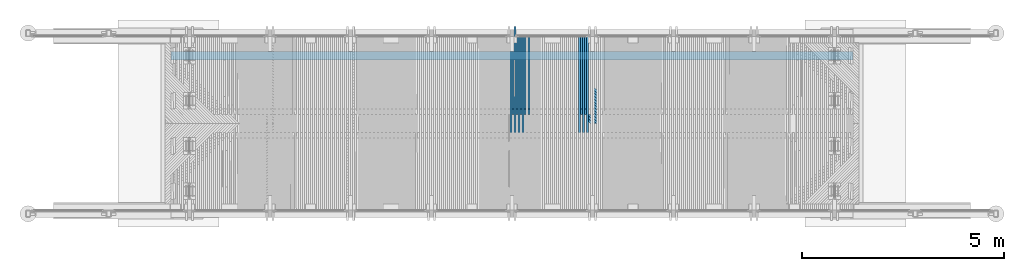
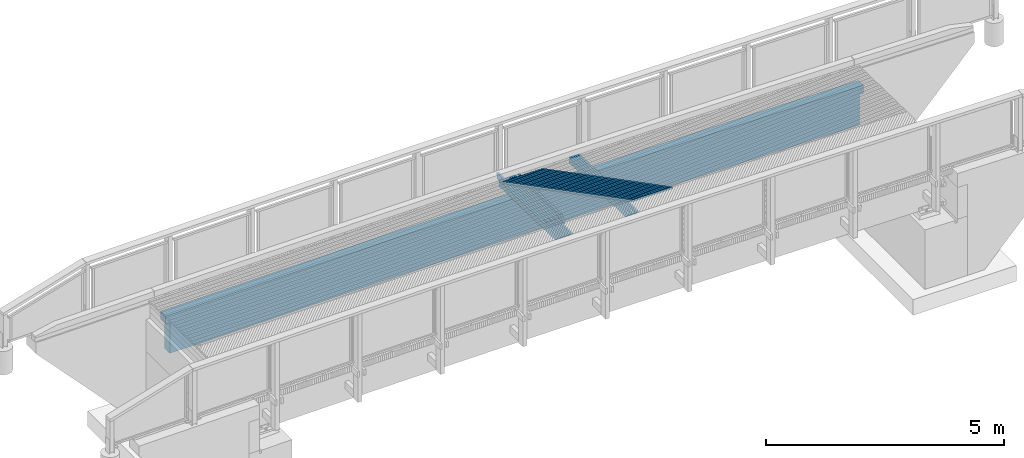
# One storey, part 35 of 65: 29 beams.
"""IFC2X3 building model written with IfcOpenShell, lengths in millimetres."""

from ifc_helpers import new_model, si_unit, frame, origin_with_axes, place, context, subcontext, project, spatial, faceted_brep, material, type_object, element, save


model = new_model("IFC2X3")

# Units and contexts
model_context = context("Model", 3, precision=1e-05, world=origin_with_axes())
body_context = subcontext(model_context, "Body", "Model", "MODEL_VIEW")
ifc_project = project(units=[si_unit("LENGTHUNIT", "METRE", prefix="MILLI"), si_unit("AREAUNIT", "SQUARE_METRE"), si_unit("VOLUMEUNIT", "CUBIC_METRE"), si_unit("MASSUNIT", "GRAM", prefix="KILO"), si_unit("TIMEUNIT", "SECOND"), si_unit("PLANEANGLEUNIT", "RADIAN"), si_unit("SOLIDANGLEUNIT", "STERADIAN"), si_unit("THERMODYNAMICTEMPERATUREUNIT", "DEGREE_CELSIUS"), si_unit("LUMINOUSINTENSITYUNIT", "LUMEN")], contexts=[model_context])

# Site, building, storey
site_placement = place(None, origin_with_axes())
site = spatial("IfcSite", under=ifc_project, at=site_placement, Name="Undefined", CompositionType="ELEMENT")
building_placement = place(site_placement, origin_with_axes())
building = spatial("IfcBuilding", under=site, at=building_placement, Name="Undefined", CompositionType="ELEMENT")
storey_placement = place(building_placement, origin_with_axes())
storey = spatial("IfcBuildingStorey", under=building, at=storey_placement, Name="Undefined", CompositionType="ELEMENT", Elevation=0.0)

# Beams
ifc_material = material(Name="TIMBER/Timber_Undefined")
beam_type_1 = type_object("IfcBeamType", Name="50*50", PredefinedType="NOTDEFINED")
for number, where, z_axis, x_axis, name in (
    (1, (10894.0405199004, 22365.4998996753, 3229.16691949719), (0.707044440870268, 0.706981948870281, -0.0162690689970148), (-0.707162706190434, 0.706948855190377, -0.0120092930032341), "BEAM"),
    (2, (10823.3170835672, 22365.4998996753, 3229.50270179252), (0.70704634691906, 0.706981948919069, -0.0161860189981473), (-0.707161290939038, 0.706948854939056, -0.0120923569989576), "BEAM"),
    (3, (10752.5936082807, 22365.4998996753, 3229.83017686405), (0.70704824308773, 0.706981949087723, -0.0161029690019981), (-0.707159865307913, 0.706948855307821, -0.0121754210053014), "BEAM"),
    (4, (10681.8700950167, 22365.4998996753, 3230.14934470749), (0.707050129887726, 0.706981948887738, -0.0160199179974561), (-0.707158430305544, 0.706948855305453, -0.0122584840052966), "BEAM"),
    (5, (10611.1465447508, 22365.4998996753, 3230.46020531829), (0.707052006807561, 0.70698194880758, -0.0159368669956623), (-0.707156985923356, 0.706948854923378, -0.0123415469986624), "BEAM"),
    (6, (10540.422958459, 22365.4998996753, 3230.76275869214), (0.707053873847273, 0.70698194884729, -0.0158538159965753), (-0.707155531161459, 0.706948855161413, -0.0124246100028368), "BEAM"),
    (7, (10469.6993371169, 22365.4998996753, 3231.05700482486), (0.707055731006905, 0.706981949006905, -0.0157707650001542), (-0.707154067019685, 0.706948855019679, -0.0125076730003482), "BEAM"),
    (8, (10398.9756817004, 22365.4998996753, 3231.34294371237), (0.707057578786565, 0.706981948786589, -0.0156877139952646), (-0.707152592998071, 0.706948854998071, -0.0125907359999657), "BEAM"),
    (9, (10328.2519931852, 22365.4998996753, 3231.62057535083), (0.707059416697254, 0.706981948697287, -0.0156046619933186), (-0.707151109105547, 0.706948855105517, -0.0126737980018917), "BEAM"),
    (10, (10257.5282725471, 22365.4998996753, 3231.88989973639), (0.707061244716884, 0.706981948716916, -0.0155216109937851), (-0.707149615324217, 0.706948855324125, -0.0127568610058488), "BEAM"),
    (11, (10186.8045207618, 22365.4998996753, 3232.15091686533), (0.707063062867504, 0.70698194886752, -0.0154385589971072), (-0.707148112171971, 0.706948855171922, -0.0128399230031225), "BEAM"),
    (12, (10116.0807388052, 22365.4998996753, 3232.40362673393), (0.707064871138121, 0.706981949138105, -0.0153555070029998), (-0.707146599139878, 0.706948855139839, -0.0129229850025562), "BEAM"),
    (13, (10045.356927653, 22365.4998996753, 3232.64802933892), (0.707066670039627, 0.706981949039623, -0.0152724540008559), (-0.707145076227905, 0.706948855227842, -0.0130060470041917), "BEAM"),
    (14, (9974.63308828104, 22365.4998996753, 3232.8841246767), (0.707068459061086, 0.706981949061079, -0.0151894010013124), (-0.707143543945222, 0.706948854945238, -0.0130891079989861), "BEAM"),
):
    element("IfcBeam", number, at=place(storey_placement, frame(where, z_axis=z_axis, x_axis=x_axis)), inside=storey, type_object=beam_type_1, material=ifc_material, Name=name, ObjectType="50*50", context=body_context, shape_type="Brep", body=[
        faceted_brep([(23.5869248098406, 24.9999999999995, -24.9999999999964), (-26.4154158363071, 24.9999999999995, 24.9999999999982), (2802.92643296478, 25.0, 25.0), (2852.92877373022, 25.0000000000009, -25.0), (-25.0011704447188, -25.0, 24.9999999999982), (2804.34067830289, -25.0, 25.0000000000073), (25.0011701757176, -25.0000000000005, -24.9999999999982), (2854.34301907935, -24.9999999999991, -25.0000000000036)], [[[0, 1, 2, 3]], [[1, 4, 5, 2]], [[4, 6, 7, 5]], [[6, 0, 3, 7]], [[5, 7, 3, 2]], [[6, 4, 1, 0]]]),
    ])
beam_type_2 = type_object("IfcBeamType", Name="150*50", PredefinedType="NOTDEFINED")
for number, where, z_axis, x_axis, name in (
    (15, (9875.54866800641, 24513.4953923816, 3090.22816959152), (0.00303469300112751, 0.0199960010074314, 0.999795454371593), (6.06930000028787e-05, -0.999800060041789, 0.0199959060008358), "BEAM"),
    (16, (9775.52909420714, 24513.4953923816, 3090.53149263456), (0.00286857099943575, 0.0199960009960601, 0.999795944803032), (5.73710000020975e-05, -0.999800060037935, 0.0199959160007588), "BEAM"),
):
    element("IfcBeam", number, at=place(storey_placement, frame(where, z_axis=z_axis, x_axis=x_axis)), inside=storey, type_object=beam_type_2, material=ifc_material, Name=name, ObjectType="150*50", context=body_context, shape_type="Brep", body=[
        faceted_brep([(-1.6778358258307e-07, -24.9999999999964, -74.9999999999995), (-1.6778358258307e-07, 25.0000000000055, -75.0), (2375.00494422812, 25.0000000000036, -75.0), (2375.00494447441, -24.9999999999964, -74.9999999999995), (1.67790858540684e-07, -24.9999999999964, 75.0000000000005), (1.67790858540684e-07, 25.0000000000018, 74.9999999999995), (2150.42515052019, 25.0000000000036, 74.9999999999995), (2510.59248715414, 25.0000000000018, 60.5875433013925), (2510.59248714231, -24.9999999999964, 60.5875430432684), (2150.42514405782, -24.9999999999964, 75.0000000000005)], [[[0, 1, 2, 3]], [[0, 4, 5, 1]], [[2, 1, 5, 6, 7]], [[3, 2, 7, 8]], [[4, 0, 3, 8, 9]], [[5, 4, 9, 6]], [[8, 7, 6, 9]]]),
    ])
beam_1_placement = place(storey_placement, frame((9825.54889674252, 24513.4953923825, 3090.37966862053), z_axis=(0.00303469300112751, 0.0199960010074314, 0.999795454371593), x_axis=(6.06930000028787e-05, -0.999800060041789, 0.0199959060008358)))
element("IfcBeam", 17, at=beam_1_placement, inside=storey, type_object=beam_type_2, material=ifc_material, Name="BEAM", ObjectType="150*50", context=body_context, shape_type="Brep", body=[
    faceted_brep([(-1.6778358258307e-07, -24.9999999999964, -74.9999999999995), (1.67790858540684e-07, -24.9999999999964, 75.0000000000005), (1.67790858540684e-07, 25.0000000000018, 74.9999999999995), (-1.6778358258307e-07, 25.0000000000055, -75.0), (1789.96936408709, 24.9999999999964, 75.0), (1928.42646328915, 24.9999999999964, -75.0), (1928.42646353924, -25.0, -75.0000000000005), (1789.96936433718, -25.0000000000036, 74.9999999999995)], [[[0, 1, 2, 3]], [[3, 2, 4, 5]], [[0, 3, 5, 6]], [[1, 0, 6, 7]], [[2, 1, 7, 4]], [[5, 4, 7, 6]]]),
])
beam_2_placement = place(storey_placement, frame((9675.50947138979, 24513.4953923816, 3090.81819688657), z_axis=(0.00270244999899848, 0.019996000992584, 0.999796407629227), x_axis=(5.40480000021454e-05, -0.999800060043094, 0.0199959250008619)))
element("IfcBeam", 18, at=beam_2_placement, inside=storey, type_object=beam_type_2, material=ifc_material, Name="BEAM", ObjectType="150*50", context=body_context, shape_type="Brep", body=[
    faceted_brep([(-1.6778358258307e-07, -24.9999999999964, -74.9999999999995), (-1.6778358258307e-07, 25.0000000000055, -75.0), (2375.00494422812, 25.0000000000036, -75.0), (2375.00494447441, -24.9999999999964, -74.9999999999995), (1.67790858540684e-07, -24.9999999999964, 75.0000000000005), (1.67790858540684e-07, 25.0000000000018, 74.9999999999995), (2150.42515052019, 25.0000000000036, 74.9999999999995), (2510.59248715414, 25.0000000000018, 60.5875433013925), (2510.59248714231, -24.9999999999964, 60.5875430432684), (2150.42514405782, -24.9999999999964, 75.0000000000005)], [[[0, 1, 2, 3]], [[0, 4, 5, 1]], [[2, 1, 5, 6, 7]], [[3, 2, 7, 8]], [[4, 0, 3, 8, 9]], [[5, 4, 9, 6]], [[8, 7, 6, 9]]]),
])
for number, where, z_axis, x_axis, name in (
    (19, (9725.52929846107, 24513.4953923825, 3090.67468393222), (0.00286857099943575, 0.0199960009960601, 0.999795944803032), (5.73710000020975e-05, -0.999800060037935, 0.0199959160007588), "BEAM"),
    (20, (8425.27119088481, 24513.4953923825, 3092.99757031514), (0.000708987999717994, 0.019996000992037, 0.999799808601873), (1.41790000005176e-05, -0.999800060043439, 0.0199959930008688), "BEAM"),
):
    element("IfcBeam", number, at=place(storey_placement, frame(where, z_axis=z_axis, x_axis=x_axis)), inside=storey, type_object=beam_type_2, material=ifc_material, Name=name, ObjectType="150*50", context=body_context, shape_type="Brep", body=[
        faceted_brep([(-1.6778358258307e-07, -24.9999999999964, -74.9999999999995), (1.67790858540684e-07, -24.9999999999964, 75.0000000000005), (1.67790858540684e-07, 25.0000000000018, 74.9999999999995), (-1.6778358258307e-07, 25.0000000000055, -75.0), (1789.96936408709, 24.9999999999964, 75.0), (1928.42646328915, 24.9999999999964, -75.0), (1928.42646353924, -25.0, -75.0000000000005), (1789.96936433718, -25.0000000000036, 74.9999999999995)], [[[0, 1, 2, 3]], [[3, 2, 4, 5]], [[0, 3, 5, 6]], [[1, 0, 6, 7]], [[2, 1, 7, 4]], [[5, 4, 7, 6]]]),
    ])
beam_3_placement = place(storey_placement, frame((8275.23115137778, 24513.4953923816, 3093.08707977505), z_axis=(0.000376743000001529, 0.0199960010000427, 0.999799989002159), x_axis=(7.53400000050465e-06, -0.999800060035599, 0.0199959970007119)))
element("IfcBeam", 21, at=beam_3_placement, inside=storey, type_object=beam_type_2, material=ifc_material, Name="BEAM", ObjectType="150*50", context=body_context, shape_type="Brep", body=[
    faceted_brep([(-1.6778358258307e-07, -24.9999999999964, -74.9999999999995), (-1.6778358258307e-07, 25.0000000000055, -75.0), (2375.00494422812, 25.0000000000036, -75.0), (2375.00494447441, -24.9999999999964, -74.9999999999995), (1.67790858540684e-07, -24.9999999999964, 75.0000000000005), (1.67790858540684e-07, 25.0000000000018, 74.9999999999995), (2150.42515052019, 25.0000000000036, 74.9999999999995), (2510.59248715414, 25.0000000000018, 60.5875433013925), (2510.59248714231, -24.9999999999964, 60.5875430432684), (2150.42514405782, -24.9999999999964, 75.0000000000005)], [[[0, 1, 2, 3]], [[0, 4, 5, 1]], [[2, 1, 5, 6, 7]], [[3, 2, 7, 8]], [[4, 0, 3, 8, 9]], [[5, 4, 9, 6]], [[8, 7, 6, 9]]]),
])
beam_4_placement = place(storey_placement, frame((8325.25117695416, 24513.4953923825, 3093.05992196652), z_axis=(0.000542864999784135, 0.019996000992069, 0.999799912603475), x_axis=(1.08570000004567e-05, -0.999800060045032, 0.0199959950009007)))
element("IfcBeam", 22, at=beam_4_placement, inside=storey, type_object=beam_type_2, material=ifc_material, Name="BEAM", ObjectType="150*50", context=body_context, shape_type="Brep", body=[
    faceted_brep([(-1.6778358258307e-07, -24.9999999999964, -74.9999999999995), (1.67790858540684e-07, -24.9999999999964, 75.0000000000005), (1.67790858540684e-07, 25.0000000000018, 74.9999999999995), (-1.6778358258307e-07, 25.0000000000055, -75.0), (1789.96936408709, 24.9999999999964, 75.0), (1928.42646328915, 24.9999999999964, -75.0), (1928.42646353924, -25.0, -75.0000000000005), (1789.96936433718, -25.0000000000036, 74.9999999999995)], [[[0, 1, 2, 3]], [[3, 2, 4, 5]], [[0, 3, 5, 6]], [[1, 0, 6, 7]], [[2, 1, 7, 4]], [[5, 4, 7, 6]]]),
])
beam_5_placement = place(storey_placement, frame((8175.21112464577, 24513.4953923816, 3093.12450147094), z_axis=(0.000210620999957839, 0.0199960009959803, 0.999800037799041), x_axis=(4.21200000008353e-06, -0.999800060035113, 0.0199959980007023)))
element("IfcBeam", 23, at=beam_5_placement, inside=storey, type_object=beam_type_2, material=ifc_material, Name="BEAM", ObjectType="150*50", context=body_context, shape_type="Brep", body=[
    faceted_brep([(-1.6778358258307e-07, -24.9999999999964, -74.9999999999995), (-1.6778358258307e-07, 25.0000000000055, -75.0), (2375.00494422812, 25.0000000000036, -75.0), (2375.00494447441, -24.9999999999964, -74.9999999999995), (1.67790858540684e-07, -24.9999999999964, 75.0000000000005), (1.67790858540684e-07, 25.0000000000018, 74.9999999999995), (2150.42515052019, 25.0000000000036, 74.9999999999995), (2510.59248715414, 25.0000000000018, 60.5875433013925), (2510.59248714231, -24.9999999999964, 60.5875430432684), (2150.42514405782, -24.9999999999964, 75.0000000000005)], [[[0, 1, 2, 3]], [[0, 4, 5, 1]], [[2, 1, 5, 6, 7]], [[3, 2, 7, 8]], [[4, 0, 3, 8, 9]], [[5, 4, 9, 6]], [[8, 7, 6, 9]]]),
])
for number, where, z_axis, x_axis, name in (
    (24, (8225.23115404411, 24513.4953923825, 3093.10565475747), (0.000376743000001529, 0.0199960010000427, 0.999799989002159), (7.53400000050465e-06, -0.999800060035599, 0.0199959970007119), "BEAM"),
    (25, (8125.21112491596, 24513.4953923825, 3093.13476868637), (0.000210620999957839, 0.0199960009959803, 0.999800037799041), (4.21200000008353e-06, -0.999800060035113, 0.0199959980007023), "BEAM"),
):
    element("IfcBeam", number, at=place(storey_placement, frame(where, z_axis=z_axis, x_axis=x_axis)), inside=storey, type_object=beam_type_2, material=ifc_material, Name=name, ObjectType="150*50", context=body_context, shape_type="Brep", body=[
        faceted_brep([(-1.6778358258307e-07, -24.9999999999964, -74.9999999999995), (1.67790858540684e-07, -24.9999999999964, 75.0000000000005), (1.67790858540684e-07, 25.0000000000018, 74.9999999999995), (-1.6778358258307e-07, 25.0000000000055, -75.0), (1789.96936408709, 24.9999999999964, 75.0), (1928.42646328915, 24.9999999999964, -75.0), (1928.42646353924, -25.0, -75.0000000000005), (1789.96936433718, -25.0000000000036, 74.9999999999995)], [[[0, 1, 2, 3]], [[3, 2, 4, 5]], [[0, 3, 5, 6]], [[1, 0, 6, 7]], [[2, 1, 7, 4]], [[5, 4, 7, 6]]]),
    ])
beam_6_placement = place(storey_placement, frame((7975.1710594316, 24513.4953923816, 3093.14948827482), z_axis=(-0.000121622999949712, 0.0199960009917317, 0.999800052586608), x_axis=(-2.43299999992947e-06, -0.999800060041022, 0.0199959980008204)))
element("IfcBeam", 26, at=beam_6_placement, inside=storey, type_object=beam_type_2, material=ifc_material, Name="BEAM", ObjectType="150*50", context=body_context, shape_type="Brep", body=[
    faceted_brep([(-1.6778358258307e-07, -24.9999999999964, -74.9999999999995), (-1.6778358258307e-07, 25.0000000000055, -75.0), (2375.00494422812, 25.0000000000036, -75.0), (2375.00494447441, -24.9999999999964, -74.9999999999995), (1.67790858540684e-07, -24.9999999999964, 75.0000000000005), (1.67790858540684e-07, 25.0000000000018, 74.9999999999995), (2150.42515052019, 25.0000000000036, 74.9999999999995), (2510.59248715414, 25.0000000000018, 60.5875433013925), (2510.59248714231, -24.9999999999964, 60.5875430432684), (2150.42514405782, -24.9999999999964, 75.0000000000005)], [[[0, 1, 2, 3]], [[0, 4, 5, 1]], [[2, 1, 5, 6, 7]], [[3, 2, 7, 8]], [[4, 0, 3, 8, 9]], [[5, 4, 9, 6]], [[8, 7, 6, 9]]]),
])
beam_7_placement = place(storey_placement, frame((8025.19109233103, 24513.4953923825, 3093.14726375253), z_axis=(4.44979999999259e-05, 0.0199960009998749, 0.999800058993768), x_axis=(8.90000000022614e-07, -0.999800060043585, 0.0199959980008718)))
element("IfcBeam", 27, at=beam_7_placement, inside=storey, type_object=beam_type_2, material=ifc_material, Name="BEAM", ObjectType="150*50", context=body_context, shape_type="Brep", body=[
    faceted_brep([(-1.6778358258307e-07, -24.9999999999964, -74.9999999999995), (1.67790858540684e-07, -24.9999999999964, 75.0000000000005), (1.67790858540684e-07, 25.0000000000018, 74.9999999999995), (-1.6778358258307e-07, 25.0000000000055, -75.0), (1789.96936408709, 24.9999999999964, 75.0), (1928.42646328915, 24.9999999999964, -75.0), (1928.42646353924, -25.0, -75.0000000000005), (1789.96936433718, -25.0000000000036, 74.9999999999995)], [[[0, 1, 2, 3]], [[3, 2, 4, 5]], [[0, 3, 5, 6]], [[1, 0, 6, 7]], [[2, 1, 7, 4]], [[5, 4, 7, 6]]]),
])
beam_8_placement = place(storey_placement, frame((8075.17061305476, 24771.443807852, 3087.98545943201), z_axis=(4.44979999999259e-05, 0.0199960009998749, 0.999800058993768), x_axis=(8.90000000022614e-07, -0.999800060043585, 0.0199959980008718)))
element("IfcBeam", 28, at=beam_8_placement, inside=storey, type_object=beam_type_2, material=ifc_material, Name="BEAM", ObjectType="150*50", context=body_context, shape_type="Brep", body=[
    faceted_brep([(-1.6778358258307e-07, -24.9999999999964, -74.9999999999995), (-1.6778358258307e-07, 25.0000000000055, -75.0), (2633.00494750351, 24.9999999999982, -74.9999999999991), (2633.00494763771, -25.0000000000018, -74.9999999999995), (1.67790858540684e-07, -24.9999999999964, 75.0000000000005), (1.67790858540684e-07, 25.0000000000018, 74.9999999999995), (2408.42506824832, 24.9999999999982, 75.0000000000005), (2768.59248710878, 24.9999999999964, 60.587539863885), (2768.59248713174, -25.0000000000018, 60.5875397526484), (2408.42506549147, -25.0000000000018, 75.0000000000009)], [[[0, 1, 2, 3]], [[0, 4, 5, 1]], [[2, 1, 5, 6, 7]], [[3, 2, 7, 8]], [[4, 0, 3, 8, 9]], [[5, 4, 9, 6]], [[8, 7, 6, 9]]]),
])
beam_type_3 = type_object("IfcBeamType", Name="990*215", PredefinedType="NOTDEFINED")
beam_9_placement = place(storey_placement, frame((243.613169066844, 24045.0, 2480.11879463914), z_axis=(0.0, 0.0, 1.0), x_axis=(1.0, 0.0, 0.0)))
element("IfcBeam", 29, at=beam_9_placement, inside=storey, type_object=beam_type_3, material=ifc_material, Name="PALKKI", ObjectType="990*215", context=body_context, shape_type="Brep", body=[
    faceted_brep([(16106.3868309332, 107.5, -494.790894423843), (16106.3868309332, -107.5, -494.790894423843), (16080.5342107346, -107.5, -494.790894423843), (15793.4597682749, -107.5, -494.790894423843), (15506.3868309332, -107.5, -494.958794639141), (15506.3868309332, 107.5, -494.958794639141), (15793.4597682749, 107.5, -494.790894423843), (16080.5342107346, 107.5, -494.790894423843), (16106.3868309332, 107.5, 285.209105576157), (16106.3868309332, -107.5, 285.209105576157), (16206.3868309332, 107.5, 285.209105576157), (16206.3868309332, -107.5, 285.209105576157), (16206.3868309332, 107.5, 485.682039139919), (16206.3868309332, -107.5, 485.682039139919), (-627.370013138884, 107.5, 486.625216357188), (-627.370013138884, -107.5, 486.625216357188), (-316.879497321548, -107.5, 490.87213125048), (-316.879497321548, 107.5, 490.87213125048), (-693.613169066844, -107.5, 485.684940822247), (-693.613169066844, -107.5, 285.209105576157), (-624.563039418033, -107.5, 285.209105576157), (-693.613169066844, 107.5, 485.684940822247), (-693.613169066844, 107.5, 285.209105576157), (-624.563039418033, 107.5, 285.209105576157), (-593.613169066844, 107.5, 285.209105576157), (-593.613169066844, -107.5, 285.209105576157), (-593.613169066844, 107.5, -494.790894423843), (-593.613169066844, -107.5, -494.790894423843), (-303.651924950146, -107.5, -494.790894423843), (-6.38683093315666, -107.5, 494.958794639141), (6.38683093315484, -107.5, -494.958794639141), (-6.38683093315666, 107.5, 494.958794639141), (6.38683093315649, 107.5, -494.790894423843), (304.107903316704, 107.5, 498.885205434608), (316.370645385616, 107.5, -491.038844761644), (-303.651924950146, 107.5, -494.790894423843), (316.370645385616, -107.5, -491.038844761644), (304.107903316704, -107.5, 498.885205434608), (614.604622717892, -107.5, 502.651362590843), (614.604622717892, 107.5, 502.651362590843), (626.356441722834, 107.5, -487.278884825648), (626.356441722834, -107.5, -487.278884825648), (936.344137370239, -107.5, -483.678915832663), (925.103244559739, -107.5, 506.257265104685), (925.103244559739, 107.5, 506.257265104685), (936.344137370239, 107.5, -483.678915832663), (1246.33364975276, 107.5, -480.238938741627), (1246.33364975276, -107.5, -480.238938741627), (1235.60368613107, -107.5, 509.702912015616), (1235.60368613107, 107.5, 509.702912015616), (1546.10586472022, 107.5, 512.988302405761), (1556.32489629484, 107.5, -476.958954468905), (1556.32489629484, -107.5, -476.958954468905), (1546.10586472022, -107.5, 512.988302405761), (1856.60969761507, -107.5, 516.113435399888), (1856.60969761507, 107.5, 516.113435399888), (1866.31779442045, 107.5, -473.838963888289), (1866.31779442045, -107.5, -473.838963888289), (2176.31226155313, -107.5, -470.878967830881), (2167.11510210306, -107.5, 519.078310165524), (2167.11510210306, 107.5, 519.078310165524), (2176.31226155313, 107.5, -470.878967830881), (2486.30821511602, 107.5, -468.078967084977), (2486.30821511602, -107.5, -468.078967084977), (2477.6219954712, -107.5, 521.882925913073), (2477.6219954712, 107.5, 521.882925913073), (2788.13029500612, 107.5, 524.527281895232), (2796.30557253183, 107.5, -465.438962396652), (2796.30557253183, -107.5, -465.438962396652), (2788.13029500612, -107.5, 524.527281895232), (3098.63991799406, -107.5, 527.011377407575), (3098.63991799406, 107.5, 527.011377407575), (3106.30425122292, 107.5, -462.958954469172), (3106.30425122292, -107.5, -462.958954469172), (3416.30416861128, -107.5, -460.638943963), (3409.15078172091, -107.5, 529.335211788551), (3409.15078172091, 107.5, 529.335211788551), (3416.30416861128, 107.5, -460.638943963), (3726.30524211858, 107.5, -458.478931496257), (3726.30524211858, -107.5, -458.478931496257), (3719.66280347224, -107.5, 531.49878441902), (3719.66280347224, 107.5, 531.49878441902), (4030.1759005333, 107.5, 533.502094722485), (4036.3073891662, 107.5, -456.478917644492), (4036.3073891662, -107.5, -456.478917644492), (4030.1759005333, -107.5, 533.502094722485), (4340.68999018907, -107.5, 535.345142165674), (4340.68999018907, 107.5, 535.345142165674), (4346.3105271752, 107.5, -454.638902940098), (4346.3105271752, -107.5, -454.638902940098), (4656.31457356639, -107.5, -452.958887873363), (4651.20498972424, -107.5, 537.027926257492), (4651.20498972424, 107.5, 537.027926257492), (4656.31457356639, 107.5, -452.958887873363), (4966.31944576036, 107.5, -451.438872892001), (4966.31944576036, -107.5, -451.438872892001), (4961.72081642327, -107.5, 538.550446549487), (4961.72081642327, 107.5, 538.550446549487), (5272.23738757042, 107.5, 539.912702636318), (5276.32506117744, 107.5, -450.078858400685), (5276.32506117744, -107.5, -450.078858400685), (5272.23738757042, -107.5, 539.912702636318), (5582.75462044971, -107.5, 541.114694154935), (5582.75462044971, 107.5, 541.114694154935), (5586.33133723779, 107.5, -448.878844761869), (5586.33133723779, -107.5, -448.878844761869), (5896.33819136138, -107.5, -447.838832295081), (5893.27243234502, -107.5, 542.156420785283), (5893.27243234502, 107.5, 542.156420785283), (5896.33819136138, 107.5, -447.838832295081), (6206.34554096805, 107.5, -446.958821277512), (6206.34554096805, -107.5, -446.958821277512), (6203.79074054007, -107.5, 543.037882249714), (6203.79074054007, 107.5, 543.037882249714), (6514.30946231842, 107.5, 543.759078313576), (6516.35330347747, 107.5, -446.238811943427), (6516.35330347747, -107.5, -446.238811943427), (6514.30946231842, -107.5, 543.759078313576), (6824.82851496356, -107.5, 544.320008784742), (6824.82851496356, 107.5, 544.320008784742), (6826.36139630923, 107.5, -445.678804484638), (6826.36139630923, -107.5, -445.678804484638), (7136.36973688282, -107.5, -445.278799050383), (7135.34781575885, -107.5, 544.720673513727), (7135.34781575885, 107.5, 544.720673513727), (7136.36973688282, 107.5, -445.278799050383), (7446.37824261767, 107.5, -445.038795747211), (7446.37824261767, -107.5, -445.038795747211), (7445.86728198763, -107.5, 544.961072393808), (7445.86728198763, 107.5, 544.961072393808), (7756.38683093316, 107.5, 545.041205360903), (7756.38683093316, 107.5, -444.958794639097), (7756.38683093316, -107.5, -444.958794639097), (7756.38683093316, -107.5, 545.041205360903), (8066.90637987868, -107.5, 544.961072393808), (8066.90637987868, 107.5, 544.961072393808), (8066.39541924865, 107.5, -445.038795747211), (8066.39541924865, -107.5, -445.038795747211), (8376.40392498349, -107.5, -445.278799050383), (8377.42584610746, -107.5, 544.720673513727), (8377.42584610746, 107.5, 544.720673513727), (8376.40392498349, 107.5, -445.278799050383), (8686.41226555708, 107.5, -445.678804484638), (8686.41226555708, -107.5, -445.678804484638), (8687.94514690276, -107.5, 544.320008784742), (8687.94514690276, 107.5, 544.320008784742), (8998.46419954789, 107.5, 543.759078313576), (8996.42035838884, 107.5, -446.238811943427), (8996.42035838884, -107.5, -446.238811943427), (8998.46419954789, -107.5, 543.759078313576), (9308.98292132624, -107.5, 543.037882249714), (9308.98292132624, 107.5, 543.037882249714), (9306.42812089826, 107.5, -446.958821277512), (9306.42812089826, -107.5, -446.958821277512), (9616.43547050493, -107.5, -447.838832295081), (9619.50122952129, -107.5, 542.156420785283), (9619.50122952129, 107.5, 542.156420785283), (9616.43547050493, 107.5, -447.838832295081), (9926.44232462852, 107.5, -448.878844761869), (9926.44232462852, -107.5, -448.878844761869), (9930.0190414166, -107.5, 541.114694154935), (9930.0190414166, 107.5, 541.114694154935), (10240.5362742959, 107.5, 539.912702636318), (10236.4486006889, 107.5, -450.078858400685), (10236.4486006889, -107.5, -450.078858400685), (10240.5362742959, -107.5, 539.912702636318), (10551.052845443, -107.5, 538.550446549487), (10551.052845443, 107.5, 538.550446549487), (10546.454216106, 107.5, -451.438872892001), (10546.454216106, -107.5, -451.438872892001), (10856.4590882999, -107.5, -452.958887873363), (10861.5686721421, -107.5, 537.027926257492), (10861.5686721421, 107.5, 537.027926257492), (10856.4590882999, 107.5, -452.958887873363), (11166.4631346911, 107.5, -454.638902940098), (11166.4631346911, -107.5, -454.638902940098), (11172.0836716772, -107.5, 535.345142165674), (11172.0836716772, 107.5, 535.345142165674), (11482.597761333, 107.5, 533.502094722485), (11476.4662727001, 107.5, -456.478917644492), (11476.4662727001, -107.5, -456.478917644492), (11482.597761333, -107.5, 533.502094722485), (11793.1108583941, -107.5, 531.49878441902), (11793.1108583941, 107.5, 531.49878441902), (11786.4684197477, 107.5, -458.478931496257), (11786.4684197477, -107.5, -458.478931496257), (12096.469493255, -107.5, -460.638943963), (12103.6228801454, -107.5, 529.335211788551), (12103.6228801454, 107.5, 529.335211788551), (12096.469493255, 107.5, -460.638943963), (12406.4694106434, 107.5, -462.958954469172), (12406.4694106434, -107.5, -462.958954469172), (12414.1337438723, -107.5, 527.011377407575), (12414.1337438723, 107.5, 527.011377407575), (12724.6433668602, 107.5, 524.527281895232), (12716.4680893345, 107.5, -465.438962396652), (12716.4680893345, -107.5, -465.438962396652), (12724.6433668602, -107.5, 524.527281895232), (13035.1516663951, -107.5, 521.882925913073), (13035.1516663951, 107.5, 521.882925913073), (13026.4654467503, 107.5, -468.078967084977), (13026.4654467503, -107.5, -468.078967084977), (13336.4614003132, -107.5, -470.878967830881), (13345.6585597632, -107.5, 519.078310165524), (13345.6585597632, 107.5, 519.078310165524), (13336.4614003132, 107.5, -470.878967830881), (13646.4558674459, 107.5, -473.838963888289), (13646.4558674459, -107.5, -473.838963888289), (13656.1639642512, -107.5, 516.113435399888), (13656.1639642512, 107.5, 516.113435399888), (13966.6677971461, 107.5, 512.988302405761), (13956.4487655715, 107.5, -476.958954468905), (13956.4487655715, -107.5, -476.958954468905), (13966.6677971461, -107.5, 512.988302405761), (14277.1699757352, -107.5, 509.702912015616), (14277.1699757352, 107.5, 509.702912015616), (14266.4400121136, 107.5, -480.238938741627), (14266.4400121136, -107.5, -480.238938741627), (14576.4295244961, -107.5, -483.678915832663), (14587.6704173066, -107.5, 506.257265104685), (14587.6704173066, 107.5, 506.257265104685), (14576.4295244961, 107.5, -483.678915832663), (14886.4172201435, 107.5, -487.278884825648), (14886.4172201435, -107.5, -487.278884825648), (14898.1690391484, -107.5, 502.651362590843), (14898.1690391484, 107.5, 502.651362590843), (15208.6657585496, 107.5, 498.885205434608), (15196.4030164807, 107.5, -491.038844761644), (15196.4030164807, -107.5, -491.038844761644), (15208.6657585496, -107.5, 498.885205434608), (15519.1604927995, -107.5, 494.958794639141), (15519.1604927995, 107.5, 494.958794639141), (15806.6537751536, -107.5, 491.180342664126), (15806.6537751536, 107.5, 491.180342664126), (16094.1452189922, -107.5, 487.264500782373), (16094.1452189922, 107.5, 487.264500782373)], [[[0, 1, 2, 3, 4, 5, 6, 7]], [[8, 9, 1, 0]], [[10, 11, 9, 8]], [[12, 13, 11, 10]], [[14, 15, 16, 17]], [[15, 18, 19, 20]], [[21, 22, 19, 18]], [[15, 14, 21, 18]], [[21, 14, 23, 22]], [[24, 25, 20, 19, 22, 23]], [[26, 27, 25, 24]], [[16, 15, 20, 25, 27, 28]], [[29, 16, 28, 30]], [[17, 16, 29, 31]], [[32, 31, 33, 34]], [[17, 31, 32, 35]], [[24, 23, 14, 17, 35, 26]], [[32, 30, 28, 27, 26, 35]], [[34, 36, 30, 32]], [[29, 30, 36, 37]], [[31, 29, 37, 33]], [[33, 37, 38, 39]], [[34, 33, 39, 40]], [[36, 34, 40, 41]], [[37, 36, 41, 38]], [[38, 41, 42, 43]], [[39, 38, 43, 44]], [[40, 39, 44, 45]], [[41, 40, 45, 42]], [[42, 45, 46, 47]], [[43, 42, 47, 48]], [[44, 43, 48, 49]], [[45, 44, 49, 46]], [[46, 49, 50, 51]], [[47, 46, 51, 52]], [[48, 47, 52, 53]], [[49, 48, 53, 50]], [[50, 53, 54, 55]], [[51, 50, 55, 56]], [[52, 51, 56, 57]], [[53, 52, 57, 54]], [[54, 57, 58, 59]], [[55, 54, 59, 60]], [[56, 55, 60, 61]], [[57, 56, 61, 58]], [[58, 61, 62, 63]], [[59, 58, 63, 64]], [[60, 59, 64, 65]], [[61, 60, 65, 62]], [[62, 65, 66, 67]], [[63, 62, 67, 68]], [[64, 63, 68, 69]], [[65, 64, 69, 66]], [[66, 69, 70, 71]], [[67, 66, 71, 72]], [[68, 67, 72, 73]], [[69, 68, 73, 70]], [[70, 73, 74, 75]], [[71, 70, 75, 76]], [[72, 71, 76, 77]], [[73, 72, 77, 74]], [[74, 77, 78, 79]], [[75, 74, 79, 80]], [[76, 75, 80, 81]], [[77, 76, 81, 78]], [[78, 81, 82, 83]], [[79, 78, 83, 84]], [[80, 79, 84, 85]], [[81, 80, 85, 82]], [[82, 85, 86, 87]], [[83, 82, 87, 88]], [[84, 83, 88, 89]], [[85, 84, 89, 86]], [[86, 89, 90, 91]], [[87, 86, 91, 92]], [[88, 87, 92, 93]], [[89, 88, 93, 90]], [[90, 93, 94, 95]], [[91, 90, 95, 96]], [[92, 91, 96, 97]], [[93, 92, 97, 94]], [[94, 97, 98, 99]], [[95, 94, 99, 100]], [[96, 95, 100, 101]], [[97, 96, 101, 98]], [[98, 101, 102, 103]], [[99, 98, 103, 104]], [[100, 99, 104, 105]], [[101, 100, 105, 102]], [[102, 105, 106, 107]], [[103, 102, 107, 108]], [[104, 103, 108, 109]], [[105, 104, 109, 106]], [[106, 109, 110, 111]], [[107, 106, 111, 112]], [[108, 107, 112, 113]], [[109, 108, 113, 110]], [[110, 113, 114, 115]], [[111, 110, 115, 116]], [[112, 111, 116, 117]], [[113, 112, 117, 114]], [[114, 117, 118, 119]], [[115, 114, 119, 120]], [[116, 115, 120, 121]], [[117, 116, 121, 118]], [[118, 121, 122, 123]], [[119, 118, 123, 124]], [[120, 119, 124, 125]], [[121, 120, 125, 122]], [[122, 125, 126, 127]], [[123, 122, 127, 128]], [[124, 123, 128, 129]], [[125, 124, 129, 126]], [[126, 129, 130, 131]], [[127, 126, 131, 132]], [[128, 127, 132, 133]], [[129, 128, 133, 130]], [[130, 133, 134, 135]], [[131, 130, 135, 136]], [[132, 131, 136, 137]], [[133, 132, 137, 134]], [[134, 137, 138, 139]], [[135, 134, 139, 140]], [[136, 135, 140, 141]], [[137, 136, 141, 138]], [[138, 141, 142, 143]], [[139, 138, 143, 144]], [[140, 139, 144, 145]], [[141, 140, 145, 142]], [[142, 145, 146, 147]], [[143, 142, 147, 148]], [[144, 143, 148, 149]], [[145, 144, 149, 146]], [[146, 149, 150, 151]], [[147, 146, 151, 152]], [[148, 147, 152, 153]], [[149, 148, 153, 150]], [[150, 153, 154, 155]], [[151, 150, 155, 156]], [[152, 151, 156, 157]], [[153, 152, 157, 154]], [[154, 157, 158, 159]], [[155, 154, 159, 160]], [[156, 155, 160, 161]], [[157, 156, 161, 158]], [[158, 161, 162, 163]], [[159, 158, 163, 164]], [[160, 159, 164, 165]], [[161, 160, 165, 162]], [[162, 165, 166, 167]], [[163, 162, 167, 168]], [[164, 163, 168, 169]], [[165, 164, 169, 166]], [[166, 169, 170, 171]], [[167, 166, 171, 172]], [[168, 167, 172, 173]], [[169, 168, 173, 170]], [[170, 173, 174, 175]], [[171, 170, 175, 176]], [[172, 171, 176, 177]], [[173, 172, 177, 174]], [[174, 177, 178, 179]], [[175, 174, 179, 180]], [[176, 175, 180, 181]], [[177, 176, 181, 178]], [[178, 181, 182, 183]], [[179, 178, 183, 184]], [[180, 179, 184, 185]], [[181, 180, 185, 182]], [[182, 185, 186, 187]], [[183, 182, 187, 188]], [[184, 183, 188, 189]], [[185, 184, 189, 186]], [[186, 189, 190, 191]], [[187, 186, 191, 192]], [[188, 187, 192, 193]], [[189, 188, 193, 190]], [[190, 193, 194, 195]], [[191, 190, 195, 196]], [[192, 191, 196, 197]], [[193, 192, 197, 194]], [[194, 197, 198, 199]], [[195, 194, 199, 200]], [[196, 195, 200, 201]], [[197, 196, 201, 198]], [[198, 201, 202, 203]], [[199, 198, 203, 204]], [[200, 199, 204, 205]], [[201, 200, 205, 202]], [[202, 205, 206, 207]], [[203, 202, 207, 208]], [[204, 203, 208, 209]], [[205, 204, 209, 206]], [[206, 209, 210, 211]], [[207, 206, 211, 212]], [[208, 207, 212, 213]], [[209, 208, 213, 210]], [[210, 213, 214, 215]], [[211, 210, 215, 216]], [[212, 211, 216, 217]], [[213, 212, 217, 214]], [[214, 217, 218, 219]], [[215, 214, 219, 220]], [[216, 215, 220, 221]], [[217, 216, 221, 218]], [[218, 221, 222, 223]], [[219, 218, 223, 224]], [[220, 219, 224, 225]], [[221, 220, 225, 222]], [[222, 225, 226, 227]], [[223, 222, 227, 228]], [[224, 223, 228, 229]], [[225, 224, 229, 226]], [[226, 229, 230, 231]], [[231, 230, 232, 233]], [[233, 232, 234, 235]], [[8, 0, 7, 235, 12, 10]], [[233, 235, 7, 6]], [[231, 233, 6, 5]], [[227, 226, 231, 5]], [[228, 227, 5, 4]], [[229, 228, 4, 230]], [[232, 230, 4, 3]], [[234, 232, 3, 2]], [[234, 2, 1, 9, 11, 13]], [[235, 234, 13, 12]]]),
])

save(model, "model.ifc")
